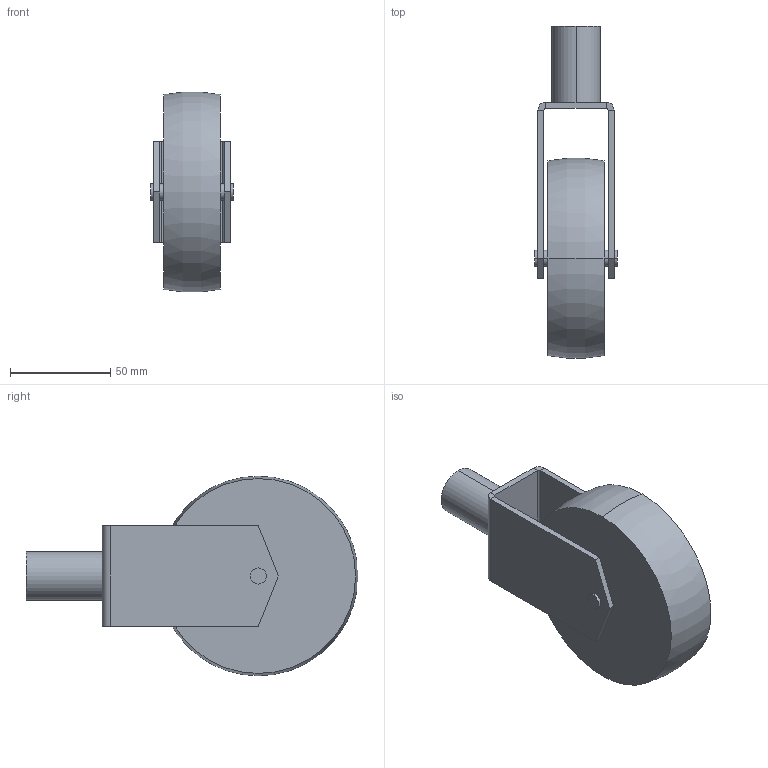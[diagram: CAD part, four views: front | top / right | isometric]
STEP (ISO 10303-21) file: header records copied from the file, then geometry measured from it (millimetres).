
FILE_DESCRIPTION (( 'STEP AP214' ), '1' );
FILE_NAME ('SGKB100CNU.step', '2024-02-15T04:33:32', ( 'catia' ), ( 'HP Inc.' ), 'SwSTEP 2.0', 'SolidWorks 2021', '' );
FILE_SCHEMA (( 'AUTOMOTIVE_DESIGN' ));
Length unit declared in the file: millimetre
Products named in the file (1): SGKB100CNU
Bounding box: 41 x 165.85 x 99.71 mm (x, y, z)
Volume: 263011 mm3; surface area: 47524.7 mm2
Topology: 1 solids, 1 shells, 41 faces, 86 edges, 52 vertices
Faces by surface type: plane 25, cylinder 14, torus 2
Entity records: 1124 total; most frequent: DIRECTION 204, CARTESIAN_POINT 180, ORIENTED_EDGE 172, EDGE_CURVE 86, AXIS2_PLACEMENT_3D 76, LINE 52, VECTOR 52, VERTEX_POINT 52
